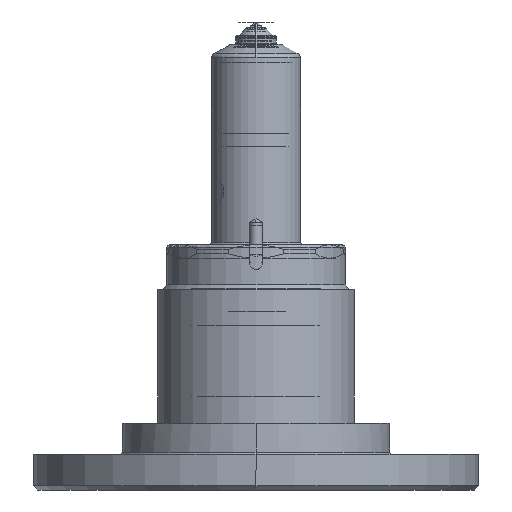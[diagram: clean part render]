
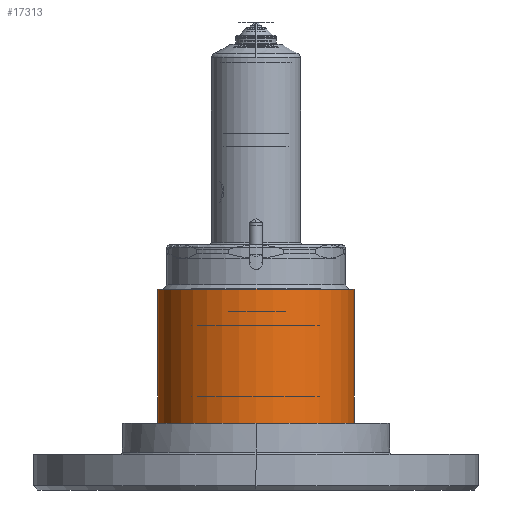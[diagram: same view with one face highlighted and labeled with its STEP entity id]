
A CAD part, front view. The second image highlights one B-rep face of the part: STEP entity #17313.
In plain terms, the highlighted cylindrical face has radius 22 mm (diameter 44 mm), a partial arc.
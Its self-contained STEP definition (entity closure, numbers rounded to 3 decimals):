
#650 = EDGE_CURVE ( 'NONE', #1531, #10156, #19143, .T. ) ;
#1531 = VERTEX_POINT ( 'NONE', #14565 ) ;
#1982 = DIRECTION ( 'NONE',  ( 0., 0., 1. ) ) ;
#2340 = CARTESIAN_POINT ( 'NONE',  ( -22., 0., 0. ) ) ;
#3359 = CIRCLE ( 'NONE', #16047, 22. ) ;
#3758 = CIRCLE ( 'NONE', #11751, 22. ) ;
#4732 = EDGE_CURVE ( 'NONE', #17186, #16226, #5289, .T. ) ;
#4778 = ORIENTED_EDGE ( 'NONE', *, *, #10373, .T. ) ;
#4883 = EDGE_LOOP ( 'NONE', ( #12623, #4778, #14626, #5102 ) ) ;
#5102 = ORIENTED_EDGE ( 'NONE', *, *, #6083, .F. ) ;
#5289 = LINE ( 'NONE', #5982, #13960 ) ;
#5813 = DIRECTION ( 'NONE',  ( 0., 0., 1. ) ) ;
#5982 = CARTESIAN_POINT ( 'NONE',  ( -22., 0., 47.584 ) ) ;
#6083 = EDGE_CURVE ( 'NONE', #16226, #10156, #3359, .T. ) ;
#8204 = CARTESIAN_POINT ( 'NONE',  ( 22., 0., 47.584 ) ) ;
#9745 = CARTESIAN_POINT ( 'NONE',  ( 22., 0., 30. ) ) ;
#9849 = DIRECTION ( 'NONE',  ( 0., 0., 1. ) ) ;
#9929 = DIRECTION ( 'NONE',  ( 0., 0., 1. ) ) ;
#10070 = CYLINDRICAL_SURFACE ( 'NONE', #19073, 22. ) ;
#10156 = VERTEX_POINT ( 'NONE', #9745 ) ;
#10373 = EDGE_CURVE ( 'NONE', #17186, #1531, #3758, .T. ) ;
#11634 = DIRECTION ( 'NONE',  ( 1., 0., 0. ) ) ;
#11751 = AXIS2_PLACEMENT_3D ( 'NONE', #16980, #5813, #18612 ) ;
#12623 = ORIENTED_EDGE ( 'NONE', *, *, #4732, .F. ) ;
#13160 = DIRECTION ( 'NONE',  ( 1., 0., 0. ) ) ;
#13228 = CARTESIAN_POINT ( 'NONE',  ( 0., 0., 30. ) ) ;
#13347 = CARTESIAN_POINT ( 'NONE',  ( 0., 0., 47.584 ) ) ;
#13834 = CARTESIAN_POINT ( 'NONE',  ( -22., 0., 30. ) ) ;
#13960 = VECTOR ( 'NONE', #15868, 1000. ) ;
#14400 = FACE_OUTER_BOUND ( 'NONE', #4883, .T. ) ;
#14565 = CARTESIAN_POINT ( 'NONE',  ( 22., 0., 0. ) ) ;
#14626 = ORIENTED_EDGE ( 'NONE', *, *, #650, .T. ) ;
#14813 = VECTOR ( 'NONE', #9849, 1000. ) ;
#15868 = DIRECTION ( 'NONE',  ( 0., 0., 1. ) ) ;
#16047 = AXIS2_PLACEMENT_3D ( 'NONE', #13228, #1982, #13160 ) ;
#16226 = VERTEX_POINT ( 'NONE', #13834 ) ;
#16980 = CARTESIAN_POINT ( 'NONE',  ( 0., 0., 0. ) ) ;
#17186 = VERTEX_POINT ( 'NONE', #2340 ) ;
#17313 = ADVANCED_FACE ( 'NONE', ( #14400 ), #10070, .T. ) ;
#18612 = DIRECTION ( 'NONE',  ( 1., 0., 0. ) ) ;
#19073 = AXIS2_PLACEMENT_3D ( 'NONE', #13347, #9929, #11634 ) ;
#19143 = LINE ( 'NONE', #8204, #14813 ) ;
